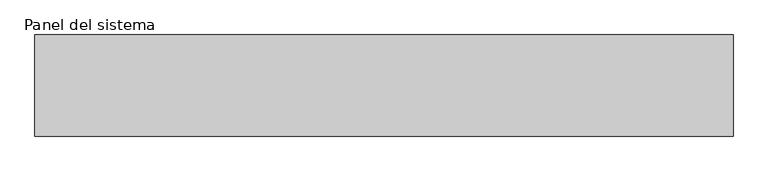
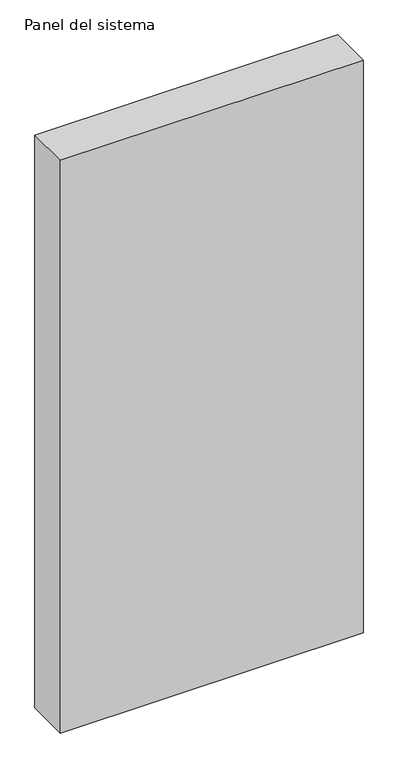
"""IFC4 building model written with IfcOpenShell, lengths in millimetres: plate geometry, Panel del sistema : Hiansa Panel - Fachada Panel FRIGO - 160mm."""

from ifc_helpers import new_model, si_unit, origin, origin_with_axes, place, context, project, spatial, polyline, outline, extrude, source, transform, mapped, element, save


def panel_del_sistema_e42a28a5(model_context):
    return source(origin(), model_context, "Body", "SweptSolid", [
        extrude(outline(polyline([(550.0000002, -160.0), (-550.0000002, -160.0), (-550.0000002, 0.0), (550.0000002, 0.0), (550.0000002, -160.0)])), origin_with_axes(), (0.0, 0.0, 1.0), 2200.0),
    ])


if __name__ == "__main__":
    model = new_model("IFC4")
    model_context = context("Model", 3, world=origin())
    ifc_project = project(units=[si_unit("LENGTHUNIT", "METRE", prefix="MILLI")], contexts=[model_context])
    site = spatial("IfcSite", under=ifc_project)
    building = spatial("IfcBuilding", under=site)
    placement = place(None, origin())
    panel_del_sistema_shape = panel_del_sistema_e42a28a5(model_context)
    element("IfcPlate", 1, ObjectType="Panel del sistema : Hiansa Panel - Fachada Panel FRIGO - 160mm", at=placement, inside=building, context=model_context, shape_type="MappedRepresentation", body=[
        mapped(panel_del_sistema_shape, transform((0.0, 0.0, 0.0), x_axis=(1.0, 0.0, 0.0), y_axis=(0.0, 1.0, 0.0), z_axis=(0.0, 0.0, 1.0))),
    ])
    save(model, "model.ifc")
